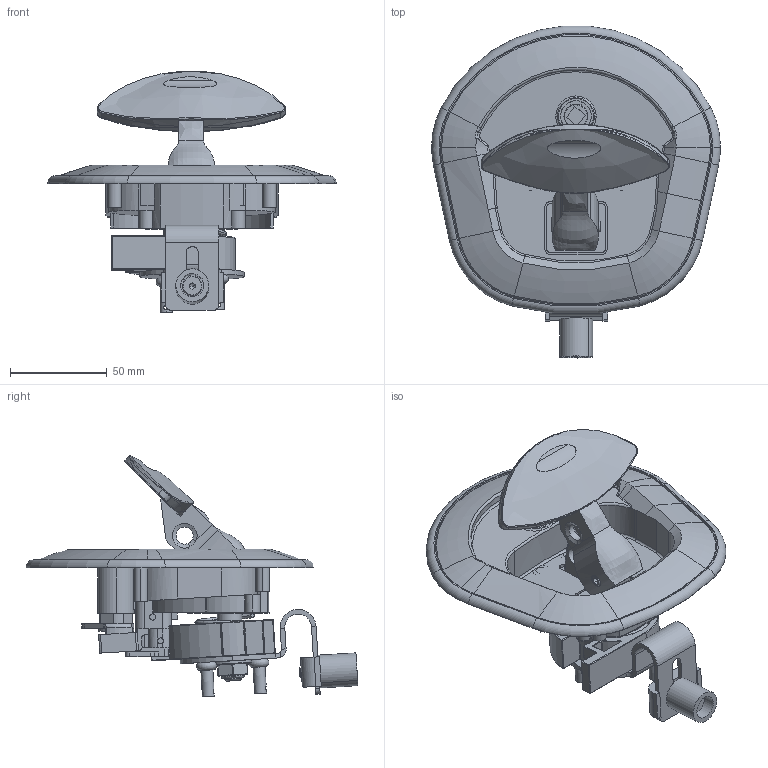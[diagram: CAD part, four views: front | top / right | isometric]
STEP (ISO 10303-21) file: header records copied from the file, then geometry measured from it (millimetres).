
FILE_DESCRIPTION (( 'STEP AP214' ), '1' );
FILE_NAME ('WTC140, WTP140.STEP', '2016-09-19T01:30:29', ( 'rquinn' ), ( '' ), 'SwSTEP 2.0', 'SolidWorks 2016', '' );
FILE_SCHEMA (( 'AUTOMOTIVE_DESIGN' ));
Length unit declared in the file: millimetre
Products named in the file (32): EWTC140Clip; EWTC140Spring; EWTC140Bolt; EWTC140Panel Spacer 2; EWTC140Panel Spaser; WTC140, WTP140; EWTC140Rubber Ring; EWTC140Spacer; EWTC140Pin 3.5 mm; EWTC140Pin 3 mm; EWTC140Lag; TS-4825 M10 NYLOCK NUT SS316; EWTC140Panel W; prevailing torque hex nut_am_AM-M6-N; TS-4817 M10 FLAT WASHER SS316; plain washer - large_as_AS 1237.1 L - 6; EWTC140Whale Tail; WTC140Plug; rivet 11_din_DIN 7341-A5x25-St-AF-23; WTC140Spacer W; EWTC140Pin; WTC140Bolt W; EWTC140Whale Tail Base; WTC140Rubber ring W; WTC140Pawl W; socket head shoulder screw2_bsi_BS 4168-7 - 6.5 x 10 --- N; WTC140Cam W; EWTC140Plastic Pin; WTC140Larger End Piece W; EWTC140Pin 6mm; EWTC140Lock Base
Assembly tree (32 placements, depth 3):
  WTC140, WTP140
    EWTC140Bolt
      EWTC140Bolt
      EWTC140Clip
      EWTC140Pin 6mm  x2
      EWTC140Plastic Pin
      socket head shoulder screw2_bsi_BS 4168-7 - 6.5 x 10 --- N
    EWTC140Whale Tail
      EWTC140Whale Tail Base
      EWTC140Pin
      rivet 11_din_DIN 7341-A5x25-St-AF-23
    TS-4817 M10 FLAT WASHER SS316
    EWTC140Panel W
    TS-4825 M10 NYLOCK NUT SS316
    EWTC140Lag
    EWTC140Pin 3 mm
    EWTC140Pin 3.5 mm
    EWTC140Spacer
    EWTC140Rubber Ring
    EWTC140Panel Spaser
    EWTC140Panel Spacer 2
    EWTC140Spring
    EWTC140Lock Base
    WTC140Larger End Piece W
    WTC140Cam W
    WTC140Pawl W
    WTC140Rubber ring W
    WTC140Bolt W
    WTC140Spacer W
    WTC140Plug
    plain washer - large_as_AS 1237.1 L - 6
    prevailing torque hex nut_am_AM-M6-N
Bounding box: 149.17 x 171.33 x 124.95 mm (x, y, z)
Volume: 205794 mm3; surface area: 166329.1 mm2
Topology: 39 solids, 39 shells, 1212 faces, 2942 edges, 1796 vertices
Faces by surface type: cylinder 474, plane 418, torus 142, cone 91, bspline 62, sphere 25
Entity records: 44207 total; most frequent: CARTESIAN_POINT 14600, DIRECTION 6210, ORIENTED_EDGE 5728, EDGE_CURVE 2864, AXIS2_PLACEMENT_3D 2441, VERTEX_POINT 1775, LINE 1328, VECTOR 1328
